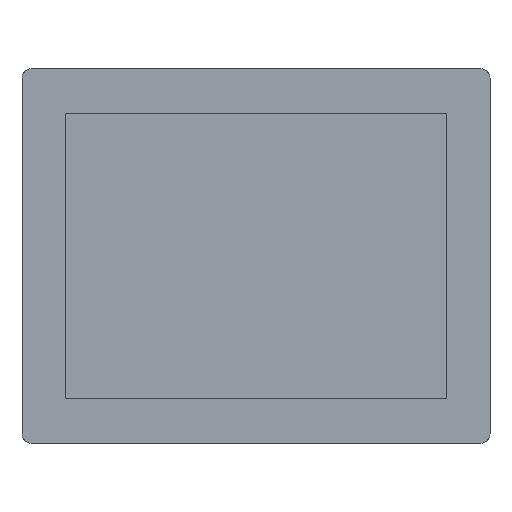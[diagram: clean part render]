
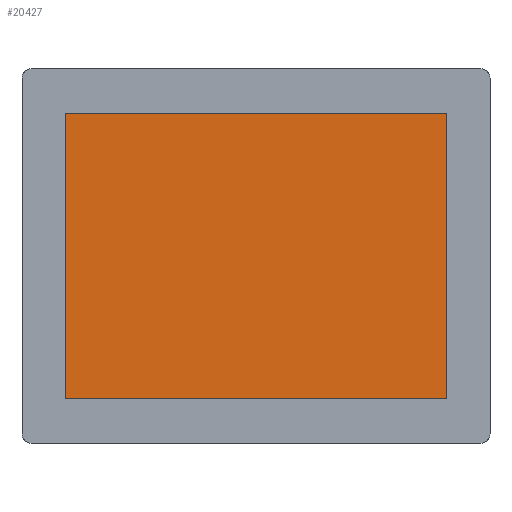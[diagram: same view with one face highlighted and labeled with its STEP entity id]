
A CAD part, top view. The second image highlights one B-rep face of the part: STEP entity #20427.
In plain terms, the highlighted planar face has unit normal (0, 0, 1).
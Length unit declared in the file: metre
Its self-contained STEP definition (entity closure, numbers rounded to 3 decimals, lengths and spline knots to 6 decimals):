
#1268=ORIENTED_EDGE('',*,*,#7231,.F.);
#1269=ORIENTED_EDGE('',*,*,#7234,.T.);
#1270=ORIENTED_EDGE('',*,*,#7236,.T.);
#1271=ORIENTED_EDGE('',*,*,#7237,.F.);
#7231=EDGE_CURVE('',#10219,#10220,#12224,.T.);
#7234=EDGE_CURVE('',#10219,#10221,#12227,.T.);
#7236=EDGE_CURVE('',#10221,#10222,#12229,.T.);
#7237=EDGE_CURVE('',#10220,#10222,#12230,.T.);
#10219=VERTEX_POINT('',#30154);
#10220=VERTEX_POINT('',#30156);
#10221=VERTEX_POINT('',#30160);
#10222=VERTEX_POINT('',#30164);
#12224=LINE('',#30155,#14481);
#12227=LINE('',#30161,#14484);
#12229=LINE('',#30165,#14486);
#12230=LINE('',#30167,#14487);
#14481=VECTOR('',#24048,1.);
#14484=VECTOR('',#24053,1.);
#14486=VECTOR('',#24057,1.);
#14487=VECTOR('',#24060,1.);
#16727=EDGE_LOOP('',(#1268,#1269,#1270,#1271));
#18146=FACE_BOUND('',#16727,.T.);
#19556=PLANE('',#22061);
#20427=ADVANCED_FACE('',(#18146),#19556,.T.);
#22061=AXIS2_PLACEMENT_3D('',#30168,#24061,#24062);
#24048=DIRECTION('',(0.,-1.,0.));
#24053=DIRECTION('',(-1.,0.,0.));
#24057=DIRECTION('',(0.,-1.,0.));
#24060=DIRECTION('',(-1.,0.,0.));
#24061=DIRECTION('',(0.,0.,1.));
#24062=DIRECTION('',(1.,0.,0.));
#30154=CARTESIAN_POINT('',(0.0815,0.061,0.00179));
#30155=CARTESIAN_POINT('',(0.0815,0.,0.00179));
#30156=CARTESIAN_POINT('',(0.0815,-0.061,0.00179));
#30160=CARTESIAN_POINT('',(-0.0815,0.061,0.00179));
#30161=CARTESIAN_POINT('',(0.,0.061,0.00179));
#30164=CARTESIAN_POINT('',(-0.0815,-0.061,0.00179));
#30165=CARTESIAN_POINT('',(-0.0815,0.,0.00179));
#30167=CARTESIAN_POINT('',(0.,-0.061,0.00179));
#30168=CARTESIAN_POINT('',(0.,0.,0.00179));
